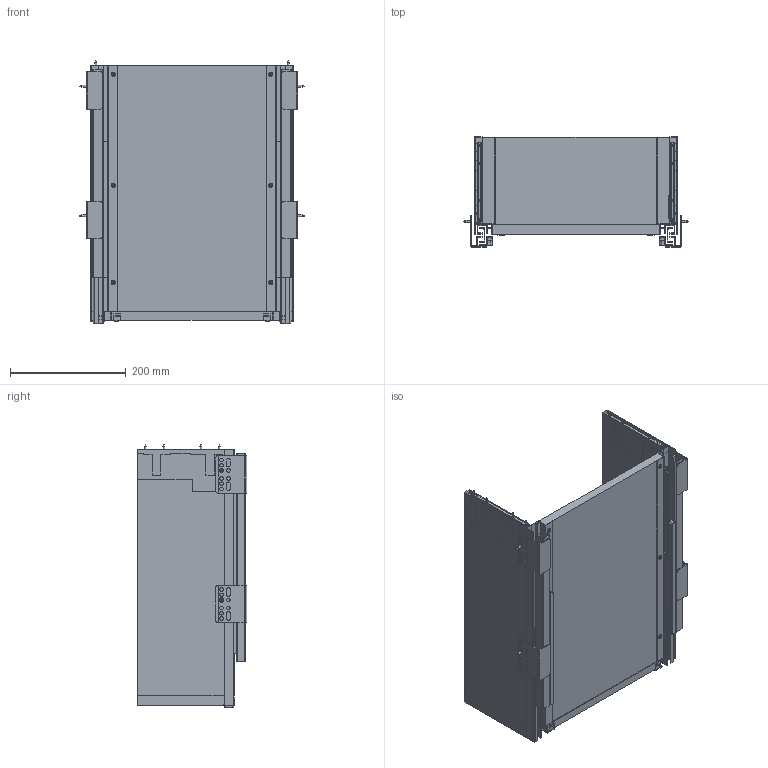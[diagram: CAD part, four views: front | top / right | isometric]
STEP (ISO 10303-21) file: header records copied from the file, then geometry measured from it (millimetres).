
FILE_DESCRIPTION(/* description */ (''),/* implementation_level */ '2;1');
FILE_NAME(/* name */ 'D:\$Workingspace\Designs\Katalog\Cadsoft\GTV Prowadnice\GTV 3D AXISPRO\Model\PB-AXISPRO-KPL450C_C1.stp',/* time_stamp */ '2019-12-16T10:02:31+01:00',/* author */ ('tomaszw'),/* organization */ (''),/* preprocessor_version */ 'ST-DEVELOPER v17.2',/* originating_system */ 'Autodesk Inventor 2019',/* authorisation */ '');
FILE_SCHEMA (('AUTOMOTIVE_DESIGN { 1 0 10303 214 3 1 1 }'));
Products named in the file (1): PB-AXISPRO-KPL450C1-F
Bounding box: 388.6 x 190 x 454.9 mm (x, y, z)
Volume: 3373756.5 mm3; surface area: 1488346 mm2
Topology: 47 solids, 49 shells, 1898 faces, 4966 edges, 3252 vertices
Faces by surface type: plane 1356, cylinder 314, bspline 116, cone 104, sphere 6, torus 2
Full cylindrical faces by diameter (mm): 2 x4, 3.5 x32, 6 x40, 7.5 x26, 7.8 x2, 8.5 x2, 10 x6
Entity records: 59186 total; most frequent: CARTESIAN_POINT 12235, ORIENTED_EDGE 9916, DIRECTION 9044, EDGE_CURVE 4958, LINE 3914, VECTOR 3914, VERTEX_POINT 3252, AXIS2_PLACEMENT_3D 2565
